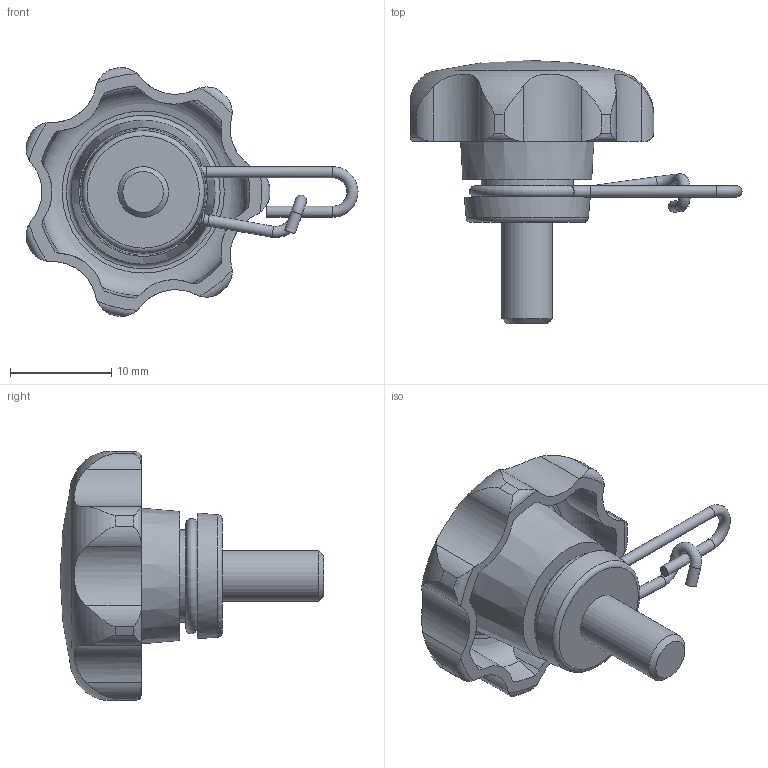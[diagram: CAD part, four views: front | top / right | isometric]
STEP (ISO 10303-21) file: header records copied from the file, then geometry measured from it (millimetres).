
FILE_DESCRIPTION( ( 'STEP AP203' ), '1' );
FILE_NAME( 'C:/Temp/Ganter_Step_05_03_2020/data/2_2/gn_6336_13/gn_6336_13_2/Star knob GN 6336.13-25-M5-10-A.stp', '2020-03-05T12:11:00', ( 'License CC BY-ND 4.0' ), ( 'CADENAS' ), ' ', 'PARTsolutions', ' ' );
FILE_SCHEMA( ( 'CONFIG_CONTROL_DESIGN' ) );
Length unit declared in the file: millimetre
Products named in the file (1): _Star knob GN 6336.13-25-M5-10-A
Bounding box: 32.77 x 26 x 24.58 mm (x, y, z)
Volume: 3262.6 mm3; surface area: 2518 mm2
Topology: 1 solids, 1 shells, 99 faces, 271 edges, 176 vertices
Faces by surface type: cylinder 59, torus 18, cone 11, plane 10, sphere 1
Full cylindrical faces by diameter (mm): 1.1 x6, 5 x1, 9.1 x1
Entity records: 3678 total; most frequent: CARTESIAN_POINT 1311, DIRECTION 476, ORIENTED_EDGE 476, EDGE_CURVE 238, AXIS2_PLACEMENT_3D 213, VERTEX_POINT 170, EDGE_LOOP 127, FACE_OUTER_BOUND 117
